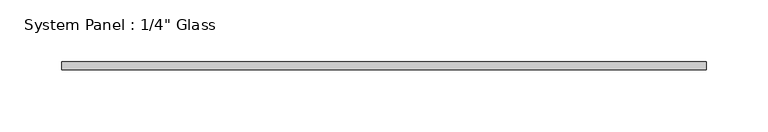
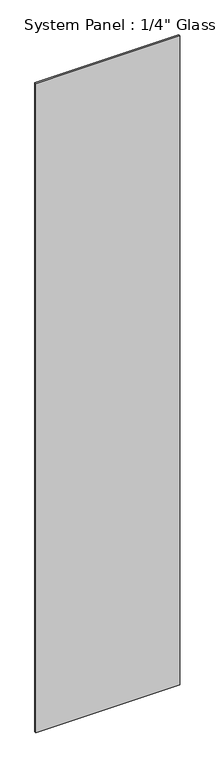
"""IFC4 building model written with IfcOpenShell, lengths in millimetres: plate geometry."""

from ifc_helpers import new_model, si_unit, origin, origin_with_axes, place, context, project, spatial, polyline, outline, extrude, source, transform, mapped, element, save


def plate_4e8ae714(model_context):
    return source(origin(), model_context, "Body", "SweptSolid", [
        extrude(outline(polyline([(260.893938, -3.175), (-260.893938, -3.175), (-260.893938, 3.175), (260.893938, 3.175), (260.893938, -3.175)])), origin_with_axes(), (0.0, 0.0, 1.0), 2489.2),
    ])


if __name__ == "__main__":
    model = new_model("IFC4")
    model_context = context("Model", 3, world=origin())
    ifc_project = project(units=[si_unit("LENGTHUNIT", "METRE", prefix="MILLI")], contexts=[model_context])
    site = spatial("IfcSite", under=ifc_project)
    building = spatial("IfcBuilding", under=site)
    placement = place(None, origin())
    plate_shape = plate_4e8ae714(model_context)
    element("IfcPlate", 1, ObjectType="System Panel : 1/4\" Glass", at=placement, inside=building, context=model_context, shape_type="MappedRepresentation", body=[
        mapped(plate_shape, transform((0.0, 0.0, 0.0), x_axis=(1.0, 0.0, 0.0), y_axis=(0.0, 1.0, 0.0), z_axis=(0.0, 0.0, 1.0))),
    ])
    save(model, "model.ifc")
